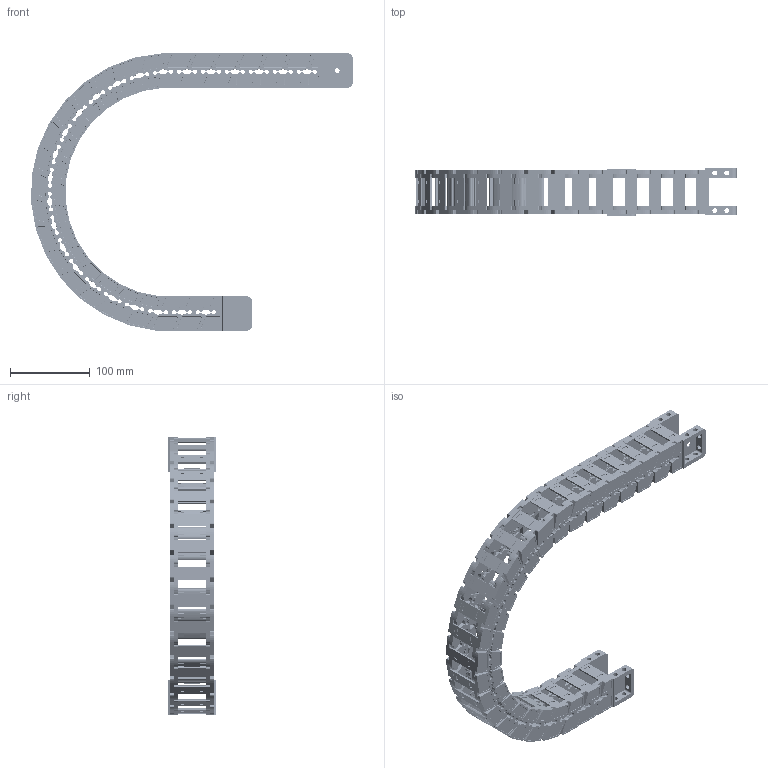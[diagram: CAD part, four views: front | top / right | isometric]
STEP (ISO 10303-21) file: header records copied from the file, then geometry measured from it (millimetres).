
FILE_DESCRIPTION((''),'2;1');
FILE_NAME('JY-35X35-R150_ASM','2025-01-05T19:59:36',('admin'),(''),'CREO PARAMETRIC BY PTC INC, 2021023','CREO PARAMETRIC BY PTC INC, 2021023','');
FILE_SCHEMA(('CONFIG_CONTROL_DESIGN'));
Length unit declared in the file: millimetre
Products named in the file (11): 35XL-L; YP; 35XL-R; ASM0001_ASM; 35-LTT-A-L; 35-LTT-A-R; 35XL-LTT-A_ASM; 35-LTT-B-L; 35-LTT-B-R; 35XL-LTT-B_ASM; JY-35X35-R150_ASM
Assembly tree (37 placements, depth 3):
  JY-35X35-R150_ASM
    ASM0001_ASM  x23
      35XL-L
      YP
      35XL-R
    35XL-LTT-A_ASM
      35-LTT-A-L
      YP  x2
      35-LTT-A-R
    35XL-LTT-B_ASM
      35-LTT-B-L
      YP  x2
      35-LTT-B-R
Bounding box: 402.36 x 59 x 347.06 mm (x, y, z)
Volume: 621068.8 mm3; surface area: 360618.1 mm2
Topology: 100 solids, 100 shells, 8160 faces, 24472 edges, 16520 vertices
Faces by surface type: plane 4618, cylinder 2678, cone 528, extrusion 192, bspline 144
Entity records: 27906 total; most frequent: CARTESIAN_POINT 6170, ORIENTED_EDGE 4640, DIRECTION 4369, EDGE_CURVE 2320, VERTEX_POINT 1568, AXIS2_PLACEMENT_3D 1476, VECTOR 1417, LINE 1401
